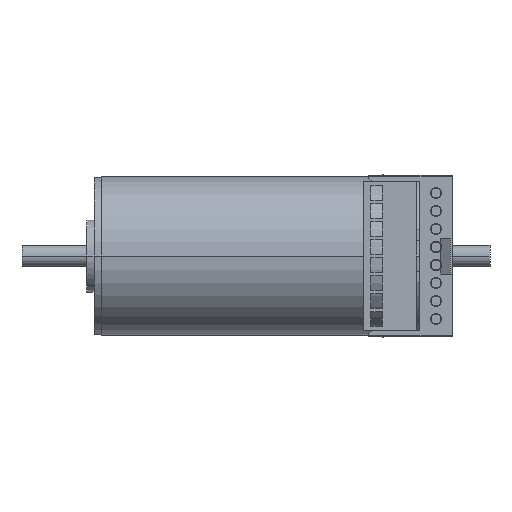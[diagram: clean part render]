
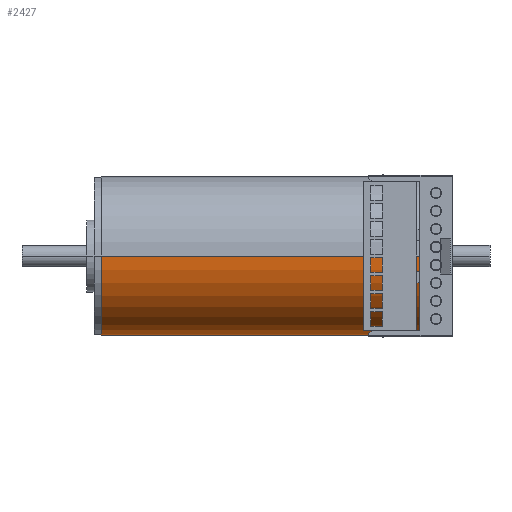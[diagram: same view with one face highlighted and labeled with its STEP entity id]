
A CAD part, front view. The second image highlights one B-rep face of the part: STEP entity #2427.
In plain terms, the highlighted cylindrical face has radius 11 mm (diameter 22 mm), a partial arc.
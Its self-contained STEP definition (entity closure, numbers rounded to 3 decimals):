
#49=CARTESIAN_POINT('',(46.,0.,0.));
#50=DIRECTION('',(-1.,0.,0.));
#51=DIRECTION('',(0.,1.,0.));
#52=AXIS2_PLACEMENT_3D('',#49,#50,#51);
#156=DIRECTION('',(1.,0.,0.));
#157=VECTOR('',#156,45.);
#158=CARTESIAN_POINT('',(1.,11.,0.));
#159=LINE('',#158,#157);
#160=DIRECTION('',(-1.,0.,0.));
#161=VECTOR('',#160,45.);
#162=CARTESIAN_POINT('',(46.,-11.,0.));
#163=LINE('',#162,#161);
#169=CARTESIAN_POINT('',(1.,0.,0.));
#170=DIRECTION('',(1.,0.,0.));
#171=DIRECTION('',(0.,-1.,0.));
#172=AXIS2_PLACEMENT_3D('',#169,#170,#171);
#1869=CARTESIAN_POINT('',(1.,11.,0.));
#1870=CARTESIAN_POINT('',(46.,11.,0.));
#1871=VERTEX_POINT('',#1869);
#1872=VERTEX_POINT('',#1870);
#1873=CARTESIAN_POINT('',(46.,-11.,0.));
#1874=CARTESIAN_POINT('',(1.,-11.,0.));
#1875=VERTEX_POINT('',#1873);
#1876=VERTEX_POINT('',#1874);
#2413=CARTESIAN_POINT('',(1.,0.,0.));
#2414=DIRECTION('',(1.,0.,0.));
#2415=DIRECTION('',(0.,-1.,0.));
#2416=AXIS2_PLACEMENT_3D('',#2413,#2414,#2415);
#2417=CYLINDRICAL_SURFACE('',#2416,11.);
#2419=ORIENTED_EDGE('',*,*,#2418,.F.);
#2421=ORIENTED_EDGE('',*,*,#2420,.F.);
#2423=ORIENTED_EDGE('',*,*,#2422,.F.);
#2424=ORIENTED_EDGE('',*,*,#2363,.F.);
#2425=EDGE_LOOP('',(#2419,#2421,#2423,#2424));
#2426=FACE_OUTER_BOUND('',#2425,.F.);
#2427=ADVANCED_FACE('',(#2426),#2417,.T.);
#53=CIRCLE('',#52,11.);
#173=CIRCLE('',#172,11.);
#2363=EDGE_CURVE('',#1872,#1875,#53,.T.);
#2418=EDGE_CURVE('',#1871,#1872,#159,.T.);
#2420=EDGE_CURVE('',#1876,#1871,#173,.T.);
#2422=EDGE_CURVE('',#1875,#1876,#163,.T.);
